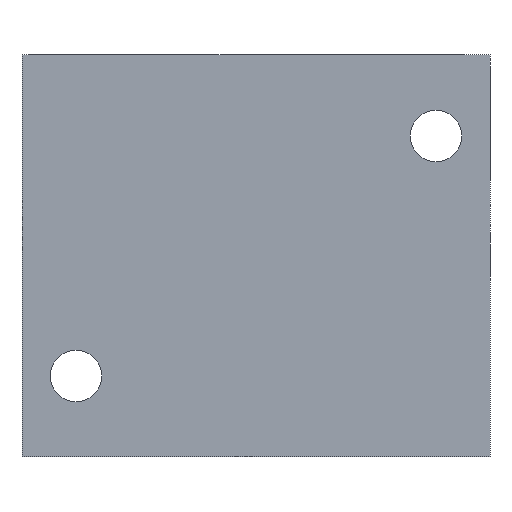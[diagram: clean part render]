
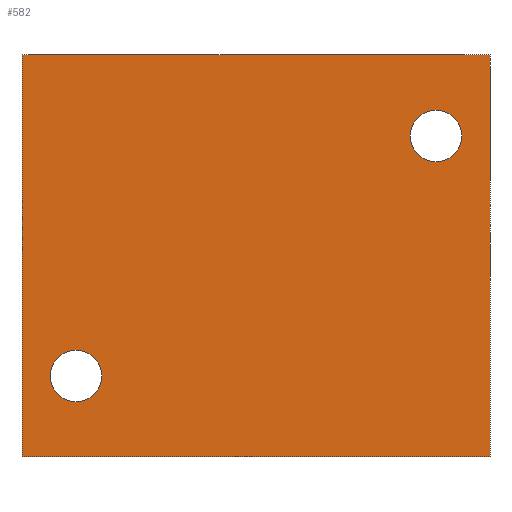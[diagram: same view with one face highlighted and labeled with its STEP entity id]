
A CAD part, front view. The second image highlights one B-rep face of the part: STEP entity #582.
In plain terms, the highlighted planar face has unit normal (0, -1, 0).
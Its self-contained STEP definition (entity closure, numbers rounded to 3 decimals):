
#10 = DIRECTION ( 'NONE',  ( 0., -1., 0. ) ) ;
#11 = LINE ( 'NONE', #1267, #380 ) ;
#14 = CARTESIAN_POINT ( 'NONE',  ( 30., -25.5, 15.7 ) ) ;
#29 = VECTOR ( 'NONE', #1327, 1000. ) ;
#38 = VERTEX_POINT ( 'NONE', #1005 ) ;
#98 = DIRECTION ( 'NONE',  ( 0., -1., 0. ) ) ;
#184 = EDGE_CURVE ( 'NONE', #780, #1016, #1193, .T. ) ;
#188 = CARTESIAN_POINT ( 'NONE',  ( -39., -25.5, -33.5 ) ) ;
#221 = CARTESIAN_POINT ( 'NONE',  ( 39., -25.5, -33.5 ) ) ;
#222 = EDGE_CURVE ( 'NONE', #1016, #780, #383, .T. ) ;
#243 = FACE_OUTER_BOUND ( 'NONE', #440, .T. ) ;
#259 = ORIENTED_EDGE ( 'NONE', *, *, #856, .T. ) ;
#330 = EDGE_LOOP ( 'NONE', ( #1487, #1280 ) ) ;
#331 = CARTESIAN_POINT ( 'NONE',  ( -30., -25.5, -20. ) ) ;
#358 = DIRECTION ( 'NONE',  ( 0., 0., -1. ) ) ;
#376 = EDGE_LOOP ( 'NONE', ( #921, #912 ) ) ;
#380 = VECTOR ( 'NONE', #881, 1000. ) ;
#383 = CIRCLE ( 'NONE', #804, 4.3 ) ;
#392 = CARTESIAN_POINT ( 'NONE',  ( 30., -25.5, 24.3 ) ) ;
#405 = DIRECTION ( 'NONE',  ( 0., 0., -1. ) ) ;
#425 = CIRCLE ( 'NONE', #1177, 4.3 ) ;
#440 = EDGE_LOOP ( 'NONE', ( #259, #651, #746, #1366 ) ) ;
#464 = DIRECTION ( 'NONE',  ( 0., -1., 0. ) ) ;
#465 = EDGE_CURVE ( 'NONE', #1114, #38, #1046, .T. ) ;
#485 = PLANE ( 'NONE',  #1256 ) ;
#507 = AXIS2_PLACEMENT_3D ( 'NONE', #331, #826, #405 ) ;
#582 = ADVANCED_FACE ( 'NONE', ( #1224, #615, #243 ), #485, .F. ) ;
#584 = LINE ( 'NONE', #1565, #29 ) ;
#595 = DIRECTION ( 'NONE',  ( 0., 0., 1. ) ) ;
#596 = CARTESIAN_POINT ( 'NONE',  ( 30., -25.5, 20. ) ) ;
#597 = CARTESIAN_POINT ( 'NONE',  ( 39., -25.5, 33.5 ) ) ;
#615 = FACE_BOUND ( 'NONE', #330, .T. ) ;
#651 = ORIENTED_EDGE ( 'NONE', *, *, #748, .F. ) ;
#666 = VECTOR ( 'NONE', #918, 1000. ) ;
#685 = CARTESIAN_POINT ( 'NONE',  ( -39., -25.5, 33.5 ) ) ;
#746 = ORIENTED_EDGE ( 'NONE', *, *, #1518, .F. ) ;
#748 = EDGE_CURVE ( 'NONE', #1524, #1213, #11, .T. ) ;
#780 = VERTEX_POINT ( 'NONE', #392 ) ;
#804 = AXIS2_PLACEMENT_3D ( 'NONE', #596, #464, #358 ) ;
#826 = DIRECTION ( 'NONE',  ( 0., -1., 0. ) ) ;
#856 = EDGE_CURVE ( 'NONE', #38, #1213, #1295, .T. ) ;
#867 = DIRECTION ( 'NONE',  ( 0., 1., 0. ) ) ;
#880 = CARTESIAN_POINT ( 'NONE',  ( -30., -25.5, -20. ) ) ;
#881 = DIRECTION ( 'NONE',  ( 0., 0., -1. ) ) ;
#912 = ORIENTED_EDGE ( 'NONE', *, *, #184, .F. ) ;
#918 = DIRECTION ( 'NONE',  ( 1., 0., 0. ) ) ;
#921 = ORIENTED_EDGE ( 'NONE', *, *, #222, .F. ) ;
#926 = DIRECTION ( 'NONE',  ( 0., 0., -1. ) ) ;
#938 = AXIS2_PLACEMENT_3D ( 'NONE', #1564, #98, #1465 ) ;
#975 = EDGE_CURVE ( 'NONE', #1207, #1497, #1261, .T. ) ;
#1000 = VECTOR ( 'NONE', #926, 1000. ) ;
#1005 = CARTESIAN_POINT ( 'NONE',  ( -39., -25.5, -33.5 ) ) ;
#1016 = VERTEX_POINT ( 'NONE', #14 ) ;
#1046 = LINE ( 'NONE', #685, #1000 ) ;
#1095 = CARTESIAN_POINT ( 'NONE',  ( -30., -25.5, -15.7 ) ) ;
#1108 = CARTESIAN_POINT ( 'NONE',  ( -30., -25.5, -24.3 ) ) ;
#1114 = VERTEX_POINT ( 'NONE', #1289 ) ;
#1177 = AXIS2_PLACEMENT_3D ( 'NONE', #880, #10, #1255 ) ;
#1193 = CIRCLE ( 'NONE', #938, 4.3 ) ;
#1207 = VERTEX_POINT ( 'NONE', #1108 ) ;
#1213 = VERTEX_POINT ( 'NONE', #221 ) ;
#1224 = FACE_BOUND ( 'NONE', #376, .T. ) ;
#1255 = DIRECTION ( 'NONE',  ( 0., 0., -1. ) ) ;
#1256 = AXIS2_PLACEMENT_3D ( 'NONE', #1562, #867, #595 ) ;
#1261 = CIRCLE ( 'NONE', #507, 4.3 ) ;
#1267 = CARTESIAN_POINT ( 'NONE',  ( 39., -25.5, 33.5 ) ) ;
#1280 = ORIENTED_EDGE ( 'NONE', *, *, #1339, .F. ) ;
#1289 = CARTESIAN_POINT ( 'NONE',  ( -39., -25.5, 33.5 ) ) ;
#1295 = LINE ( 'NONE', #188, #666 ) ;
#1327 = DIRECTION ( 'NONE',  ( 1., 0., 0. ) ) ;
#1339 = EDGE_CURVE ( 'NONE', #1497, #1207, #425, .T. ) ;
#1366 = ORIENTED_EDGE ( 'NONE', *, *, #465, .T. ) ;
#1465 = DIRECTION ( 'NONE',  ( 0., 0., -1. ) ) ;
#1487 = ORIENTED_EDGE ( 'NONE', *, *, #975, .F. ) ;
#1497 = VERTEX_POINT ( 'NONE', #1095 ) ;
#1518 = EDGE_CURVE ( 'NONE', #1114, #1524, #584, .T. ) ;
#1524 = VERTEX_POINT ( 'NONE', #597 ) ;
#1562 = CARTESIAN_POINT ( 'NONE',  ( -39., -25.5, 33.5 ) ) ;
#1564 = CARTESIAN_POINT ( 'NONE',  ( 30., -25.5, 20. ) ) ;
#1565 = CARTESIAN_POINT ( 'NONE',  ( -39., -25.5, 33.5 ) ) ;
